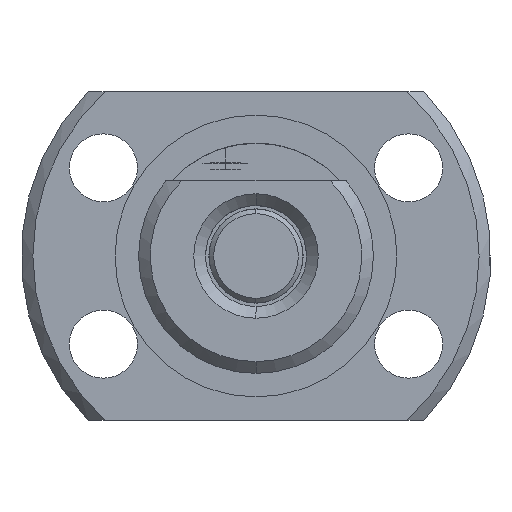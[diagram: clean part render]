
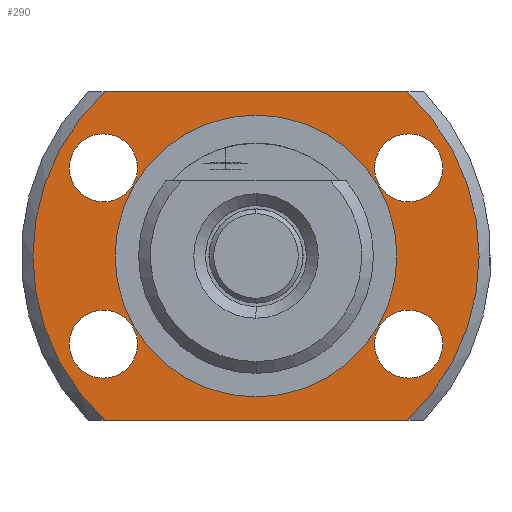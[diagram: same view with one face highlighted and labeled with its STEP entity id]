
A CAD part, left-side view. The second image highlights one B-rep face of the part: STEP entity #290.
In plain terms, the highlighted planar face has unit normal (-1, 0, 0).
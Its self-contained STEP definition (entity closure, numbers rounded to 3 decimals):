
#94 = DIRECTION ( 'NONE',  ( 0., 0., -1. ) ) ;
#96 = CARTESIAN_POINT ( 'NONE',  ( -3., 0., 0. ) ) ;
#97 = DIRECTION ( 'NONE',  ( 1., 0., 0. ) ) ;
#107 = CARTESIAN_POINT ( 'NONE',  ( -3., -6.423, 7. ) ) ;
#109 = CARTESIAN_POINT ( 'NONE',  ( -3., -6.423, -7. ) ) ;
#112 = CARTESIAN_POINT ( 'NONE',  ( -3., 6.423, 7. ) ) ;
#125 = DIRECTION ( 'NONE',  ( 0., 0., 1. ) ) ;
#126 = CARTESIAN_POINT ( 'NONE',  ( -3., 6.423, -7. ) ) ;
#132 = DIRECTION ( 'NONE',  ( -1., 0., 0. ) ) ;
#147 = CARTESIAN_POINT ( 'NONE',  ( -3., 6.495, -3.75 ) ) ;
#159 = CARTESIAN_POINT ( 'NONE',  ( -3., -6.495, -5.2 ) ) ;
#161 = CARTESIAN_POINT ( 'NONE',  ( -3., -6.495, -2.3 ) ) ;
#163 = DIRECTION ( 'NONE',  ( -1., 0., 0. ) ) ;
#171 = CARTESIAN_POINT ( 'NONE',  ( -3., 6.495, 2.3 ) ) ;
#176 = DIRECTION ( 'NONE',  ( 0., 0., 1. ) ) ;
#177 = CARTESIAN_POINT ( 'NONE',  ( -3., -6.495, 5.2 ) ) ;
#178 = CARTESIAN_POINT ( 'NONE',  ( -3., 6.495, 3.75 ) ) ;
#188 = CARTESIAN_POINT ( 'NONE',  ( -3., -6.495, 2.3 ) ) ;
#207 = DIRECTION ( 'NONE',  ( 0., 0., 1. ) ) ;
#208 = DIRECTION ( 'NONE',  ( -1., 0., 0. ) ) ;
#209 = CARTESIAN_POINT ( 'NONE',  ( -3., -6.495, 3.75 ) ) ;
#290 = ADVANCED_FACE ( 'NONE', ( #610, #611, #623, #621, #608, #612 ), #2845, .T. ) ;
#346 = EDGE_CURVE ( 'NONE', #3782, #3793, #1681, .T. ) ;
#347 = EDGE_CURVE ( 'NONE', #3795, #3793, #1706, .T. ) ;
#405 = CARTESIAN_POINT ( 'NONE',  ( -3., 0., 6. ) ) ;
#420 = CARTESIAN_POINT ( 'NONE',  ( -3., 6.495, -5.2 ) ) ;
#421 = CARTESIAN_POINT ( 'NONE',  ( -3., 6.495, 5.2 ) ) ;
#426 = CARTESIAN_POINT ( 'NONE',  ( -3., 0., -6. ) ) ;
#429 = CARTESIAN_POINT ( 'NONE',  ( -3., 6.495, -2.3 ) ) ;
#478 = EDGE_CURVE ( 'NONE', #3552, #3554, #1655, .T. ) ;
#485 = EDGE_CURVE ( 'NONE', #3795, #3790, #1648, .T. ) ;
#547 = EDGE_CURVE ( 'NONE', #3782, #3790, #1640, .T. ) ;
#553 = EDGE_CURVE ( 'NONE', #3916, #3926, #1635, .T. ) ;
#608 = FACE_BOUND ( 'NONE', #3639, .T. ) ;
#610 = FACE_BOUND ( 'NONE', #3741, .T. ) ;
#611 = FACE_BOUND ( 'NONE', #3750, .T. ) ;
#612 = FACE_BOUND ( 'NONE', #3713, .T. ) ;
#621 = FACE_OUTER_BOUND ( 'NONE', #3724, .T. ) ;
#623 = FACE_BOUND ( 'NONE', #3752, .T. ) ;
#808 = AXIS2_PLACEMENT_3D ( 'NONE', #2824, #2867, #2860 ) ;
#860 = AXIS2_PLACEMENT_3D ( 'NONE', #2969, #2968, #2967 ) ;
#870 = AXIS2_PLACEMENT_3D ( 'NONE', #2875, #2874, #2873 ) ;
#872 = AXIS2_PLACEMENT_3D ( 'NONE', #2822, #2821, #2820 ) ;
#874 = AXIS2_PLACEMENT_3D ( 'NONE', #2803, #2802, #2801 ) ;
#896 = AXIS2_PLACEMENT_3D ( 'NONE', #1869, #1867, #1866 ) ;
#897 = AXIS2_PLACEMENT_3D ( 'NONE', #1865, #1863, #1862 ) ;
#898 = AXIS2_PLACEMENT_3D ( 'NONE', #1859, #1858, #1856 ) ;
#961 = AXIS2_PLACEMENT_3D ( 'NONE', #2355, #2351, #2350 ) ;
#963 = AXIS2_PLACEMENT_3D ( 'NONE', #209, #208, #207 ) ;
#965 = AXIS2_PLACEMENT_3D ( 'NONE', #178, #163, #176 ) ;
#967 = AXIS2_PLACEMENT_3D ( 'NONE', #147, #132, #125 ) ;
#969 = AXIS2_PLACEMENT_3D ( 'NONE', #96, #97, #94 ) ;
#1001 = EDGE_CURVE ( 'NONE', #3925, #3544, #1576, .T. ) ;
#1002 = EDGE_CURVE ( 'NONE', #3919, #3937, #1571, .T. ) ;
#1003 = EDGE_CURVE ( 'NONE', #3537, #3535, #1570, .T. ) ;
#1063 = CIRCLE ( 'NONE', #969, 6. ) ;
#1069 = CIRCLE ( 'NONE', #967, 1.45 ) ;
#1075 = CIRCLE ( 'NONE', #965, 1.45 ) ;
#1081 = CIRCLE ( 'NONE', #963, 1.45 ) ;
#1089 = CIRCLE ( 'NONE', #961, 1.45 ) ;
#1570 = CIRCLE ( 'NONE', #898, 1.45 ) ;
#1571 = CIRCLE ( 'NONE', #897, 6. ) ;
#1576 = CIRCLE ( 'NONE', #896, 1.45 ) ;
#1635 = CIRCLE ( 'NONE', #874, 1.45 ) ;
#1640 = CIRCLE ( 'NONE', #872, 9.5 ) ;
#1642 = VECTOR ( 'NONE', #2843, 1000. ) ;
#1648 = LINE ( 'NONE', #2836, #1642 ) ;
#1655 = CIRCLE ( 'NONE', #870, 1.45 ) ;
#1668 = VECTOR ( 'NONE', #2974, 1000. ) ;
#1681 = LINE ( 'NONE', #2977, #1668 ) ;
#1706 = CIRCLE ( 'NONE', #860, 9.5 ) ;
#1856 = DIRECTION ( 'NONE',  ( 0., 0., 1. ) ) ;
#1858 = DIRECTION ( 'NONE',  ( -1., 0., 0. ) ) ;
#1859 = CARTESIAN_POINT ( 'NONE',  ( -3., -6.495, 3.75 ) ) ;
#1862 = DIRECTION ( 'NONE',  ( 0., 0., -1. ) ) ;
#1863 = DIRECTION ( 'NONE',  ( 1., 0., 0. ) ) ;
#1865 = CARTESIAN_POINT ( 'NONE',  ( -3., 0., 0. ) ) ;
#1866 = DIRECTION ( 'NONE',  ( 0., 0., 1. ) ) ;
#1867 = DIRECTION ( 'NONE',  ( -1., 0., 0. ) ) ;
#1869 = CARTESIAN_POINT ( 'NONE',  ( -3., 6.495, 3.75 ) ) ;
#2205 = ORIENTED_EDGE ( 'NONE', *, *, #478, .F. ) ;
#2206 = ORIENTED_EDGE ( 'NONE', *, *, #3439, .F. ) ;
#2207 = ORIENTED_EDGE ( 'NONE', *, *, #553, .F. ) ;
#2208 = ORIENTED_EDGE ( 'NONE', *, *, #3451, .F. ) ;
#2209 = ORIENTED_EDGE ( 'NONE', *, *, #547, .F. ) ;
#2210 = ORIENTED_EDGE ( 'NONE', *, *, #485, .T. ) ;
#2211 = ORIENTED_EDGE ( 'NONE', *, *, #347, .F. ) ;
#2212 = ORIENTED_EDGE ( 'NONE', *, *, #346, .T. ) ;
#2213 = ORIENTED_EDGE ( 'NONE', *, *, #1001, .F. ) ;
#2214 = ORIENTED_EDGE ( 'NONE', *, *, #3447, .F. ) ;
#2215 = ORIENTED_EDGE ( 'NONE', *, *, #3455, .T. ) ;
#2216 = ORIENTED_EDGE ( 'NONE', *, *, #1002, .T. ) ;
#2217 = ORIENTED_EDGE ( 'NONE', *, *, #1003, .F. ) ;
#2218 = ORIENTED_EDGE ( 'NONE', *, *, #3443, .F. ) ;
#2350 = DIRECTION ( 'NONE',  ( 0., 0., 1. ) ) ;
#2351 = DIRECTION ( 'NONE',  ( -1., 0., 0. ) ) ;
#2355 = CARTESIAN_POINT ( 'NONE',  ( -3., -6.495, -3.75 ) ) ;
#2801 = DIRECTION ( 'NONE',  ( 0., 0., 1. ) ) ;
#2802 = DIRECTION ( 'NONE',  ( -1., 0., 0. ) ) ;
#2803 = CARTESIAN_POINT ( 'NONE',  ( -3., 6.495, -3.75 ) ) ;
#2820 = DIRECTION ( 'NONE',  ( 0., 0., -1. ) ) ;
#2821 = DIRECTION ( 'NONE',  ( 1., 0., 0. ) ) ;
#2822 = CARTESIAN_POINT ( 'NONE',  ( -3., 0., 0. ) ) ;
#2824 = CARTESIAN_POINT ( 'NONE',  ( -3., 9.5, 0. ) ) ;
#2836 = CARTESIAN_POINT ( 'NONE',  ( -3., 9.5, 7. ) ) ;
#2843 = DIRECTION ( 'NONE',  ( 0., 1., 0. ) ) ;
#2845 = PLANE ( 'NONE',  #808 ) ;
#2860 = DIRECTION ( 'NONE',  ( 0., 0., 1. ) ) ;
#2867 = DIRECTION ( 'NONE',  ( -1., 0., 0. ) ) ;
#2873 = DIRECTION ( 'NONE',  ( 0., 0., 1. ) ) ;
#2874 = DIRECTION ( 'NONE',  ( -1., 0., 0. ) ) ;
#2875 = CARTESIAN_POINT ( 'NONE',  ( -3., -6.495, -3.75 ) ) ;
#2967 = DIRECTION ( 'NONE',  ( 0., 0., -1. ) ) ;
#2968 = DIRECTION ( 'NONE',  ( 1., 0., 0. ) ) ;
#2969 = CARTESIAN_POINT ( 'NONE',  ( -3., 0., 0. ) ) ;
#2974 = DIRECTION ( 'NONE',  ( 0., -1., 0. ) ) ;
#2977 = CARTESIAN_POINT ( 'NONE',  ( -3., 9.5, -7. ) ) ;
#3439 = EDGE_CURVE ( 'NONE', #3554, #3552, #1089, .T. ) ;
#3443 = EDGE_CURVE ( 'NONE', #3535, #3537, #1081, .T. ) ;
#3447 = EDGE_CURVE ( 'NONE', #3544, #3925, #1075, .T. ) ;
#3451 = EDGE_CURVE ( 'NONE', #3926, #3916, #1069, .T. ) ;
#3455 = EDGE_CURVE ( 'NONE', #3937, #3919, #1063, .T. ) ;
#3535 = VERTEX_POINT ( 'NONE', #188 ) ;
#3537 = VERTEX_POINT ( 'NONE', #177 ) ;
#3544 = VERTEX_POINT ( 'NONE', #171 ) ;
#3552 = VERTEX_POINT ( 'NONE', #161 ) ;
#3554 = VERTEX_POINT ( 'NONE', #159 ) ;
#3639 = EDGE_LOOP ( 'NONE', ( #2208, #2207 ) ) ;
#3713 = EDGE_LOOP ( 'NONE', ( #2206, #2205 ) ) ;
#3724 = EDGE_LOOP ( 'NONE', ( #2212, #2211, #2210, #2209 ) ) ;
#3741 = EDGE_LOOP ( 'NONE', ( #2218, #2217 ) ) ;
#3750 = EDGE_LOOP ( 'NONE', ( #2216, #2215 ) ) ;
#3752 = EDGE_LOOP ( 'NONE', ( #2214, #2213 ) ) ;
#3782 = VERTEX_POINT ( 'NONE', #126 ) ;
#3790 = VERTEX_POINT ( 'NONE', #112 ) ;
#3793 = VERTEX_POINT ( 'NONE', #109 ) ;
#3795 = VERTEX_POINT ( 'NONE', #107 ) ;
#3916 = VERTEX_POINT ( 'NONE', #429 ) ;
#3919 = VERTEX_POINT ( 'NONE', #426 ) ;
#3925 = VERTEX_POINT ( 'NONE', #421 ) ;
#3926 = VERTEX_POINT ( 'NONE', #420 ) ;
#3937 = VERTEX_POINT ( 'NONE', #405 ) ;
